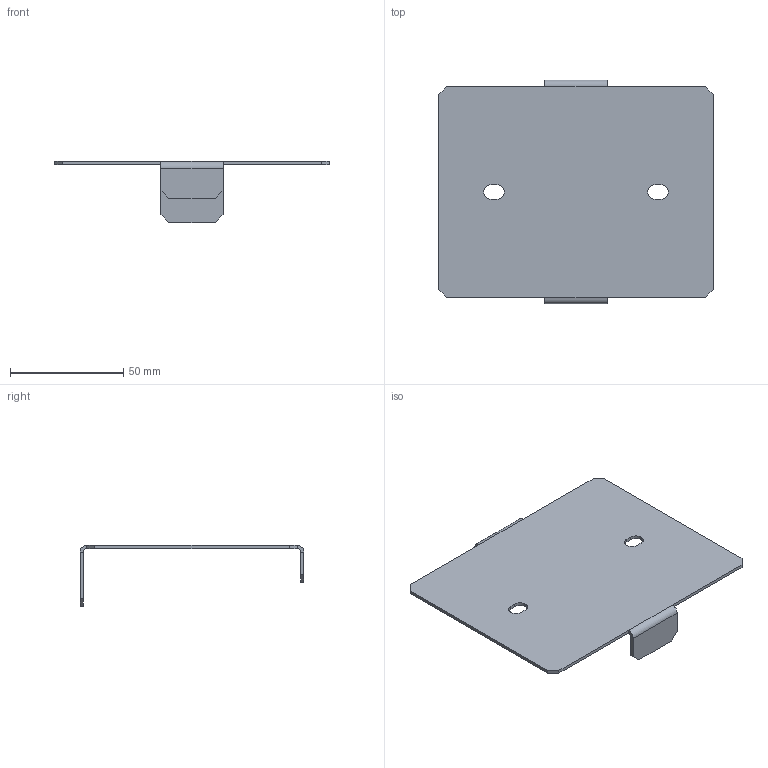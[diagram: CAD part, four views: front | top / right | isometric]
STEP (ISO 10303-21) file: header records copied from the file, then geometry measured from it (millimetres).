
FILE_DESCRIPTION (( 'STEP AP203' ), '1' );
FILE_NAME ('ZA 25 Ïàíåëü öîêîëÿ.STEP', '2012-11-20T05:08:42', ( 'system' ), ( '' ), 'SwSTEP 2.0', 'SolidWorks 2012', '' );
FILE_SCHEMA (( 'CONFIG_CONTROL_DESIGN' ));
Length unit declared in the file: millimetre
Products named in the file (1): ZA 25 Ïàíåëü öîêîëÿ
Bounding box: 121.5 x 99 x 27 mm (x, y, z)
Volume: 17356.2 mm3; surface area: 25568.2 mm2
Topology: 1 solids, 1 shells, 44 faces, 110 edges, 68 vertices
Faces by surface type: plane 34, cylinder 10
Entity records: 1371 total; most frequent: CARTESIAN_POINT 223, ORIENTED_EDGE 220, DIRECTION 220, EDGE_CURVE 110, VECTOR 90, LINE 90, VERTEX_POINT 68, AXIS2_PLACEMENT_3D 65
